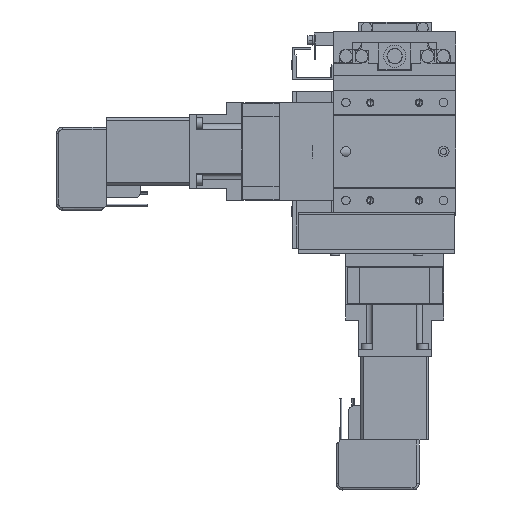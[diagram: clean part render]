
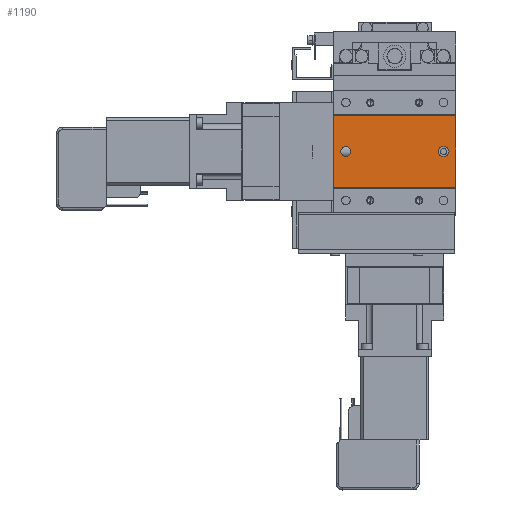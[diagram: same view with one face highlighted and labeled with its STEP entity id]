
A CAD part, front view. The second image highlights one B-rep face of the part: STEP entity #1190.
In plain terms, the highlighted planar face has unit normal (0, -1, 0).
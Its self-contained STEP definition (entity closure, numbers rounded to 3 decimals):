
#1190=ADVANCED_FACE('',(#3410,#3411,#3412),#3413,.F.);
#3410=FACE_BOUND('',#7536,.T.);
#3411=FACE_OUTER_BOUND('',#7537,.T.);
#3412=FACE_BOUND('',#7538,.T.);
#3413=PLANE('',#7539);
#7536=EDGE_LOOP('',(#13131,#13132,#13133,#13134));
#7537=EDGE_LOOP('',(#13135,#13136,#13137,#13138));
#7538=EDGE_LOOP('',(#13139,#13140,#13141));
#7539=AXIS2_PLACEMENT_3D('',#13142,#13143,#13144);
#13131=ORIENTED_EDGE('',*,*,#27318,.F.);
#13132=ORIENTED_EDGE('',*,*,#27319,.F.);
#13133=ORIENTED_EDGE('',*,*,#27320,.F.);
#13134=ORIENTED_EDGE('',*,*,#27321,.F.);
#13135=ORIENTED_EDGE('',*,*,#27303,.T.);
#13136=ORIENTED_EDGE('',*,*,#27322,.F.);
#13137=ORIENTED_EDGE('',*,*,#27323,.F.);
#13138=ORIENTED_EDGE('',*,*,#27324,.T.);
#13139=ORIENTED_EDGE('',*,*,#27208,.F.);
#13140=ORIENTED_EDGE('',*,*,#27207,.F.);
#13141=ORIENTED_EDGE('',*,*,#27325,.F.);
#13142=CARTESIAN_POINT('',(-25.,0.35,-14.65));
#13143=DIRECTION('',(0.,1.0,0.));
#13144=DIRECTION('',(-1.0,0.,0.));
#27207=EDGE_CURVE('',#32423,#32425,#32426,.F.);
#27208=EDGE_CURVE('',#32425,#32419,#32427,.F.);
#27303=EDGE_CURVE('',#32604,#32602,#32605,.T.);
#27318=EDGE_CURVE('',#32632,#32633,#32634,.F.);
#27319=EDGE_CURVE('',#32635,#32632,#32636,.T.);
#27320=EDGE_CURVE('',#32637,#32635,#32638,.F.);
#27321=EDGE_CURVE('',#32633,#32637,#32639,.T.);
#27322=EDGE_CURVE('',#32640,#32602,#32641,.T.);
#27323=EDGE_CURVE('',#32642,#32640,#32643,.T.);
#27324=EDGE_CURVE('',#32642,#32604,#32644,.T.);
#27325=EDGE_CURVE('',#32419,#32423,#32645,.F.);
#32419=VERTEX_POINT('',#40707);
#32423=VERTEX_POINT('',#40712);
#32425=VERTEX_POINT('',#40715);
#32426=CIRCLE('',#40716,2.0);
#32427=CIRCLE('',#40717,2.0);
#32602=VERTEX_POINT('',#40946);
#32604=VERTEX_POINT('',#40949);
#32605=LINE('',#40950,#40951);
#32632=VERTEX_POINT('',#40991);
#32633=VERTEX_POINT('',#40992);
#32634=CIRCLE('',#40993,2.0);
#32635=VERTEX_POINT('',#40994);
#32636=LINE('',#40995,#40996);
#32637=VERTEX_POINT('',#40997);
#32638=CIRCLE('',#40998,2.0);
#32639=LINE('',#40999,#41000);
#32640=VERTEX_POINT('',#41001);
#32641=LINE('',#41002,#41003);
#32642=VERTEX_POINT('',#41004);
#32643=LINE('',#41005,#41006);
#32644=LINE('',#41007,#41008);
#32645=CIRCLE('',#41009,2.0);
#40707=CARTESIAN_POINT('',(-18.0,0.35,0.));
#40712=CARTESIAN_POINT('',(-22.0,0.35,0.));
#40715=CARTESIAN_POINT('',(-20.,0.35,-2.));
#40716=AXIS2_PLACEMENT_3D('',#52619,#52620,#52621);
#40717=AXIS2_PLACEMENT_3D('',#52622,#52623,#52624);
#40946=CARTESIAN_POINT('',(25.,0.35,14.65));
#40949=CARTESIAN_POINT('',(25.,0.35,-14.65));
#40950=CARTESIAN_POINT('',(25.,0.35,-14.65));
#40951=VECTOR('',#52797,1000.0);
#40991=CARTESIAN_POINT('',(20.25,0.35,-2.));
#40992=CARTESIAN_POINT('',(20.25,0.35,2.));
#40993=AXIS2_PLACEMENT_3D('',#52814,#52815,#52816);
#40994=CARTESIAN_POINT('',(19.75,0.35,-2.));
#40995=CARTESIAN_POINT('',(-25.,0.35,-2.));
#40996=VECTOR('',#52817,1000.0);
#40997=CARTESIAN_POINT('',(19.75,0.35,2.));
#40998=AXIS2_PLACEMENT_3D('',#52818,#52819,#52820);
#40999=CARTESIAN_POINT('',(-25.,0.35,2.));
#41000=VECTOR('',#52821,1000.0);
#41001=CARTESIAN_POINT('',(-25.,0.35,14.65));
#41002=CARTESIAN_POINT('',(-25.,0.35,14.65));
#41003=VECTOR('',#52822,1000.0);
#41004=CARTESIAN_POINT('',(-25.,0.35,-14.65));
#41005=CARTESIAN_POINT('',(-25.,0.35,-14.65));
#41006=VECTOR('',#52823,1000.0);
#41007=CARTESIAN_POINT('',(-25.,0.35,-14.65));
#41008=VECTOR('',#52824,1000.0);
#41009=AXIS2_PLACEMENT_3D('',#52825,#52826,#52827);
#52619=CARTESIAN_POINT('',(-20.0,0.35,0.));
#52620=DIRECTION('',(0.,1.0,0.));
#52621=DIRECTION('',(0.,0.,-1.0));
#52622=CARTESIAN_POINT('',(-20.0,0.35,0.));
#52623=DIRECTION('',(0.,1.0,0.));
#52624=DIRECTION('',(0.,0.,-1.0));
#52797=DIRECTION('',(0.,0.,1.0));
#52814=CARTESIAN_POINT('',(20.25,0.35,0.));
#52815=DIRECTION('',(0.,1.0,0.));
#52816=DIRECTION('',(0.,0.,-1.0));
#52817=DIRECTION('',(1.0,0.,0.));
#52818=CARTESIAN_POINT('',(19.75,0.35,0.));
#52819=DIRECTION('',(0.,1.0,0.));
#52820=DIRECTION('',(0.,0.,-1.0));
#52821=DIRECTION('',(-1.0,0.,0.));
#52822=DIRECTION('',(1.0,0.,0.));
#52823=DIRECTION('',(0.,0.,1.0));
#52824=DIRECTION('',(1.0,0.,0.));
#52825=CARTESIAN_POINT('',(-20.0,0.35,0.));
#52826=DIRECTION('',(0.,1.0,0.));
#52827=DIRECTION('',(0.,0.,-1.0));
